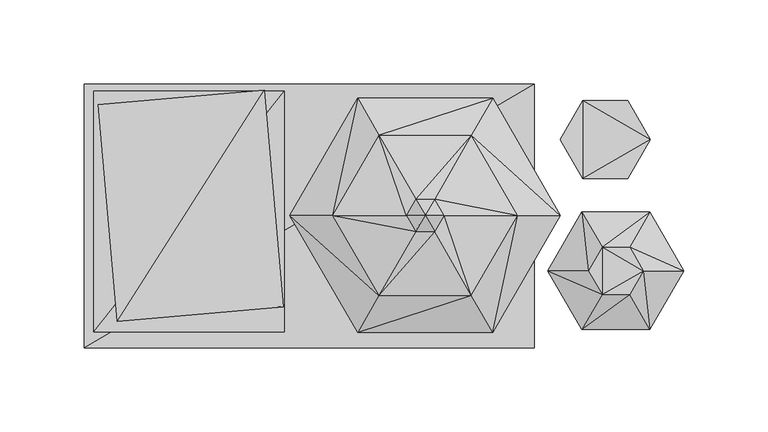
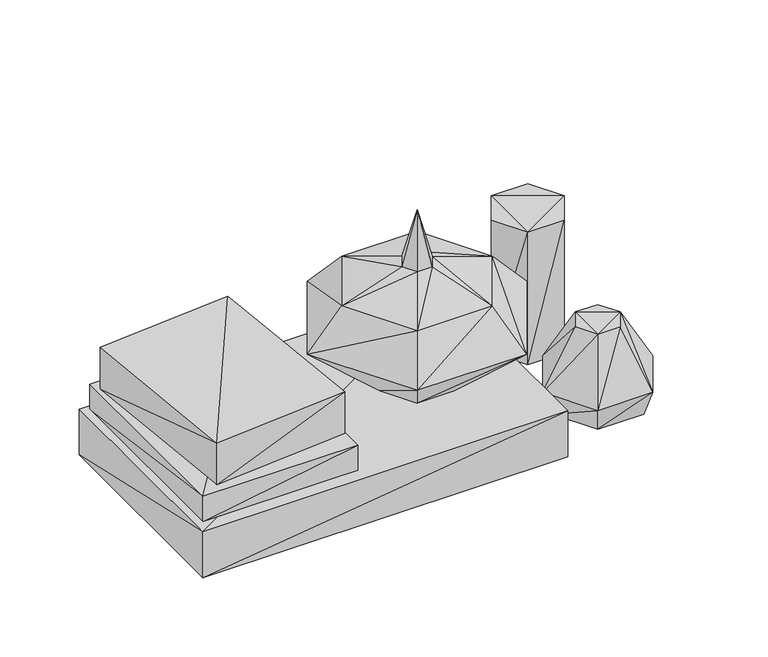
"""IFC4 building model written with IfcOpenShell, lengths in millimetres: geographic element geometry, Enscape AssetDefinition - Decoration Collection : Enscape AssetDefinition - Decoration Collection."""

from ifc_helpers import new_model, si_unit, origin, place, context, project, spatial, faceted_brep, source, transform, mapped, element, save


def geographic_element_4d599565(model_context):
    return source(origin(), model_context, "Body", "Brep", [
        faceted_brep([(183.1069887, -32.8989998, 0.0), (166.3779914, -61.8730001, 0.0), (132.9209954, -61.8730001, 0.0), (169.7719991, -67.7509978, 19.1930011), (189.8940057, -32.8989998, 19.1930011), (129.528001, -67.7509978, 19.1930011), (132.9209954, -3.9240001, 0.0), (116.1929965, -32.8989998, 0.0), (169.7719991, 1.954, 19.1930011), (166.3779914, -3.9240001, 0.0), (129.528001, 1.954, 19.1930011), (109.4050035, -32.8989998, 19.1930011), (133.3100051, -32.8989998, 61.5089983), (141.4799988, -47.0489971, 61.5089983), (141.4799988, -18.7479984, 61.5089983), (157.8199863, -18.7479984, 61.5089983), (165.9899801, -32.8989998, 61.5089983), (157.8199863, -47.0489971, 61.5089983)], [[[0, 1, 2]], [[3, 1, 4]], [[3, 2, 1]], [[4, 1, 0]], [[5, 2, 3]], [[6, 2, 7]], [[0, 2, 6]], [[5, 7, 2]], [[4, 0, 8]], [[0, 6, 9]], [[8, 0, 9]], [[10, 6, 11]], [[10, 9, 6]], [[11, 6, 7]], [[11, 7, 5]], [[12, 11, 13]], [[12, 10, 11]], [[13, 11, 5]], [[8, 9, 10]], [[14, 10, 12]], [[14, 8, 10]], [[15, 8, 14]], [[15, 4, 8]], [[14, 16, 15]], [[13, 14, 12]], [[13, 16, 14]], [[13, 17, 16]], [[13, 5, 17]], [[16, 4, 15]], [[17, 3, 16]], [[16, 3, 4]], [[17, 5, 3]]]),
        faceted_brep([(170.1250076, 44.8899977, -0.001), (156.7949951, 21.8009986, -0.001), (130.1340014, 21.8009986, -0.001), (156.7949951, 21.8009986, 102.617994), (170.1250076, 44.8899977, 102.617994), (130.1340014, 21.8009986, 102.617994), (130.1340014, 67.9790005, -0.001), (116.8029979, 44.8899977, -0.001), (156.7949951, 67.9790005, 102.617994), (156.7949951, 67.9790005, -0.001), (130.1340014, 67.9790005, 102.617994), (116.8029979, 44.8899977, 102.617994)], [[[0, 1, 2]], [[3, 1, 4]], [[3, 2, 1]], [[4, 1, 0]], [[5, 2, 3]], [[6, 2, 7]], [[0, 2, 6]], [[5, 7, 2]], [[4, 0, 8]], [[0, 6, 9]], [[8, 0, 9]], [[10, 6, 11]], [[10, 9, 6]], [[11, 6, 7]], [[11, 7, 5]], [[5, 10, 11]], [[5, 3, 4]], [[5, 4, 10]], [[10, 4, 8]], [[8, 9, 10]]]),
        faceted_brep([(63.7059957, 0.0, 35.4779996), (50.1420014, -23.4929994, 35.4779996), (23.0149999, -23.4929994, 35.4779996), (76.6550004, -69.4150031, 82.4579969), (116.7319939, 0.0, 82.4579969), (-3.4979999, -69.4150031, 82.4579969), (23.0149999, 23.4929994, 35.4779996), (9.451, 0.0, 35.4779996), (76.6550004, 69.4150031, 82.4579969), (50.1420014, 23.4929994, 35.4779996), (-3.4979999, 69.4150031, 82.4579969), (-43.575, 0.0, 82.4579969), (-18.387001, 0.0, 110.808), (9.0960003, -47.6019979, 110.808), (9.0960003, 47.6019979, 110.808), (64.0609935, 47.6019979, 110.808), (30.9649985, 9.722, 125.8880049), (25.3520012, 0.0, 125.8880049), (30.9649985, -9.722, 125.8880049), (36.578998, 0.0, 165.9969985), (42.1920009, 9.722, 125.8880049), (91.5439948, 0.0, 110.808), (64.0609935, -47.6019979, 110.808), (47.8050001, 0.0, 125.8880049), (42.1920009, -9.722, 125.8880049)], [[[0, 1, 2]], [[3, 1, 4]], [[3, 2, 1]], [[4, 1, 0]], [[5, 2, 3]], [[6, 2, 7]], [[0, 2, 6]], [[5, 7, 2]], [[4, 0, 8]], [[0, 6, 9]], [[8, 0, 9]], [[10, 6, 11]], [[10, 9, 6]], [[11, 6, 7]], [[11, 7, 5]], [[12, 11, 13]], [[12, 10, 11]], [[13, 11, 5]], [[8, 9, 10]], [[14, 10, 12]], [[14, 8, 10]], [[15, 8, 14]], [[15, 4, 8]], [[16, 14, 17]], [[16, 15, 14]], [[17, 14, 12]], [[17, 12, 18]], [[18, 12, 13]], [[19, 16, 17]], [[19, 17, 18]], [[20, 15, 16]], [[19, 20, 16]], [[21, 4, 15]], [[20, 21, 15]], [[21, 3, 4]], [[22, 3, 21]], [[23, 21, 20]], [[23, 22, 21]], [[19, 23, 20]], [[19, 18, 24]], [[19, 24, 23]], [[18, 13, 24]], [[24, 22, 23]], [[24, 13, 22]], [[13, 5, 22]], [[22, 5, 3]]]),
        faceted_brep([(101.3199985, -78.5980001, -0.001), (-165.534988, -78.5980001, -0.001), (101.3199985, 77.7909979, -0.001), (-165.534988, -78.5980001, 35.3729986), (101.3199985, -78.5980001, 35.3729986), (-165.534988, 77.7909979, -0.001), (101.3199985, 77.7909979, 35.3729986), (-165.534988, 77.7909979, 35.3729986)], [[[0, 1, 2]], [[3, 1, 4]], [[2, 1, 5]], [[4, 1, 0]], [[3, 5, 1]], [[6, 2, 7]], [[6, 0, 2]], [[7, 2, 5]], [[4, 0, 6]], [[6, 3, 4]], [[7, 3, 6]], [[7, 5, 3]]]),
        faceted_brep([(-46.8249992, -69.1410005, 35.3639983), (-159.8310024, -69.1410005, 35.3639983), (-46.8249992, 73.8229975, 35.3639983), (-159.8310024, -69.1410005, 55.1870018), (-46.8249992, -69.1410005, 55.1870018), (-159.8310024, 73.8229975, 35.3639983), (-46.8249992, 73.8229975, 55.1870018), (-159.8310024, 73.8229975, 55.1870018)], [[[0, 1, 2]], [[3, 1, 4]], [[2, 1, 5]], [[4, 1, 0]], [[3, 5, 1]], [[6, 2, 7]], [[6, 0, 2]], [[7, 2, 5]], [[4, 0, 6]], [[6, 3, 4]], [[7, 3, 6]], [[7, 5, 3]]]),
        faceted_brep([(-47.5319996, -54.3169975, 55.3580001), (-145.9780037, -62.928997, 55.3580001), (-58.7689988, 74.1370022, 55.1650003), (-145.9819973, -62.8810003, 87.6780003), (-47.5360006, -54.2689972, 87.6780003), (-157.2149992, 65.5249953, 55.1650003), (-58.7729998, 74.1859972, 87.484993), (-157.2189927, 65.5729994, 87.6780003)], [[[0, 1, 2]], [[3, 1, 4]], [[2, 1, 5]], [[4, 1, 0]], [[3, 5, 1]], [[6, 2, 7]], [[6, 0, 2]], [[7, 2, 5]], [[4, 0, 6]], [[6, 3, 4]], [[7, 3, 6]], [[7, 5, 3]]]),
    ])


if __name__ == "__main__":
    model = new_model("IFC4")
    model_context = context("Model", 3, world=origin())
    ifc_project = project(units=[si_unit("LENGTHUNIT", "METRE", prefix="MILLI")], contexts=[model_context])
    site = spatial("IfcSite", under=ifc_project)
    building = spatial("IfcBuilding", under=site)
    placement = place(None, origin())
    geographic_element_shape = geographic_element_4d599565(model_context)
    element("IfcGeographicElement", 1, ObjectType="Enscape AssetDefinition - Decoration Collection : Enscape AssetDefinition - Decoration Collection", at=placement, inside=building, context=model_context, shape_type="MappedRepresentation", body=[
        mapped(geographic_element_shape, transform((0.0, 0.0, 0.0), x_axis=(1.0, 0.0, 0.0), y_axis=(0.0, 1.0, 0.0), z_axis=(0.0, 0.0, 1.0))),
    ])
    save(model, "model.ifc")
